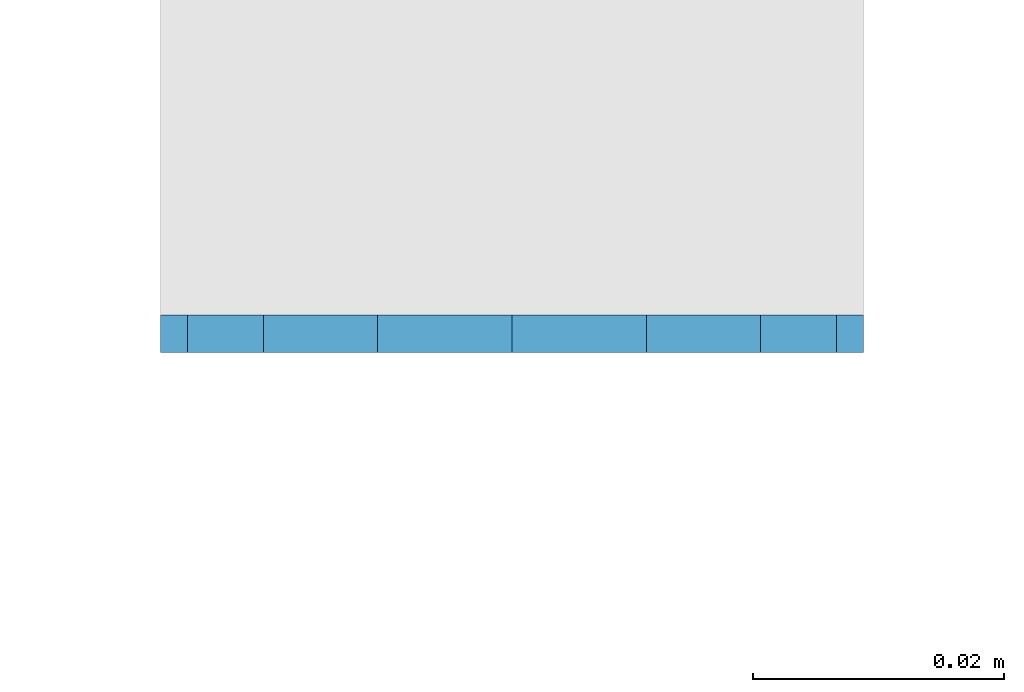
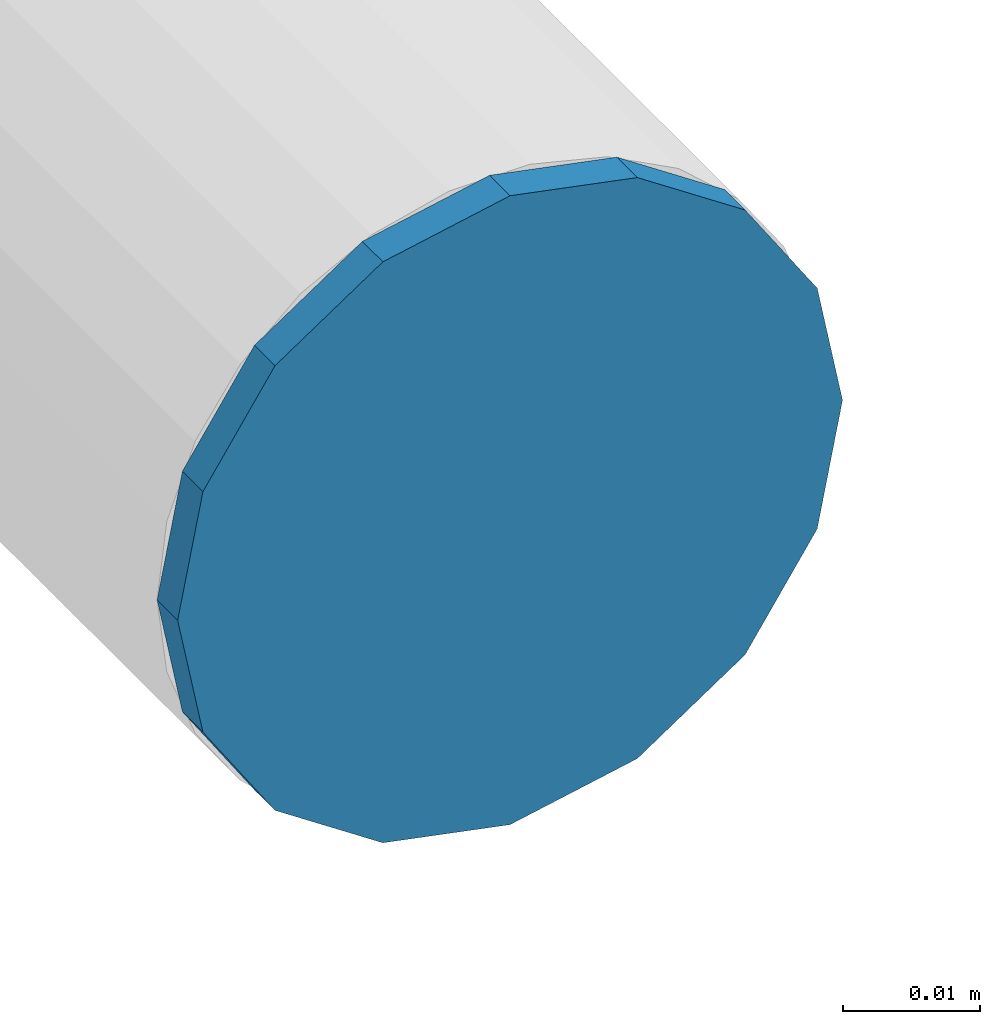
# One storey, part 78 of 186: 1 beam.
"""IFC4X3_ADD2 building model written with IfcOpenShell, lengths in millimetres."""

from ifc_helpers import new_model, si_unit, direction, frame, origin_with_axes, place, context, subcontext, project, spatial, indexed_curve, outline, extrude, material, element, save


model = new_model("IFC4X3_ADD2")

# Units and contexts
model_context = context("Model", 3, precision=1e-05, world=origin_with_axes(), true_north=direction((0.0, 1.0)))
body_context = subcontext(model_context, "Body", "Model", "MODEL_VIEW")
ifc_project = project(units=[si_unit("LENGTHUNIT", "METRE", prefix="MILLI"), si_unit("AREAUNIT", "SQUARE_METRE"), si_unit("VOLUMEUNIT", "CUBIC_METRE"), si_unit("PLANEANGLEUNIT", "RADIAN"), si_unit("TIMEUNIT", "SECOND"), si_unit("MASSUNIT", "GRAM")], contexts=[model_context])

# Site, building, storey
site_placement = place(None, origin_with_axes())
site = spatial("IfcSite", under=ifc_project, at=site_placement, Name="Site", CompositionType="ELEMENT")
building_placement = place(site_placement, origin_with_axes())
building = spatial("IfcBuilding", under=site, at=building_placement, Name="IFC Building Story")
storey_placement = place(building_placement, frame((0.0, 0.0, 4370.0), z_axis=(0.0, 0.0, 1.0), x_axis=(1.0, 0.0, 0.0)))
storey = spatial("IfcBuildingStorey", under=building, at=storey_placement, Name="ETAGE 10 (1)", Elevation=4370.0)

# Beam
ifc_material = material(Name="STEEL/Accessory 22919")
beam_placement = place(storey_placement, frame((4961.18977737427, 13307.9997253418, 2520.806), z_axis=(0.0, -1.0, 0.0), x_axis=(-0.1950903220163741, 0.0, 0.9807852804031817)))
element("IfcBeam", 1, at=beam_placement, inside=storey, material=ifc_material, Name="TA4", ObjectType="D56", context=body_context, shape_type="SweptSolid", body=[
    extrude(outline(indexed_curve([(23.28114914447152, 15.55596652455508), (27.46198785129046, 5.462529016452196), (27.46198785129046, -5.462529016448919), (23.28114914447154, -15.55596652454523), (15.55596652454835, -23.28114914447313), (5.462529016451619, -27.46198785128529), (-5.462529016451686, -27.46198785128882), (-15.55596652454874, -23.28114914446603), (-23.2811491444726, -15.55596652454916), (-27.46198785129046, -5.462529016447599), (-27.46198785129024, 5.462529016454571), (-23.28114914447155, 15.55596652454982), (-15.55596652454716, 23.28114914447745), (-5.462529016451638, 27.46198785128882), (5.462529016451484, 27.46198785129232), (15.55596652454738, 23.28114914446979), (23.28114914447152, 15.55596652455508)])), origin_with_axes(), (0.0, 0.0, 1.0), 3.000000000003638),
])

save(model, "model.ifc")
